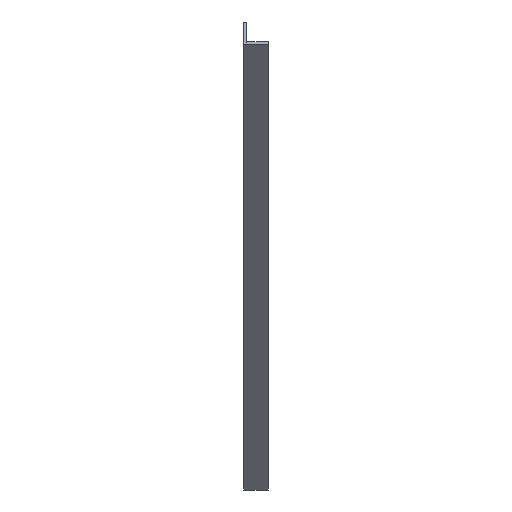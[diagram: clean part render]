
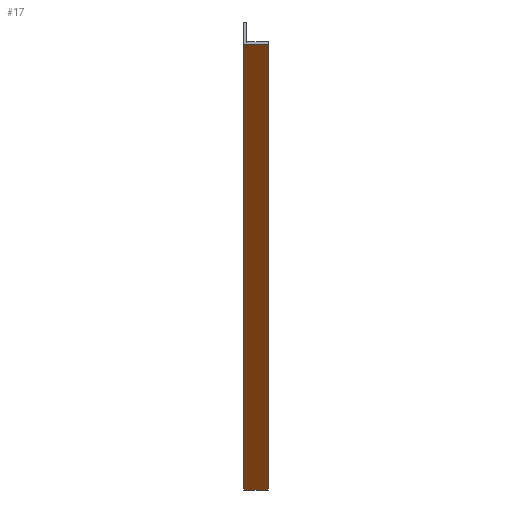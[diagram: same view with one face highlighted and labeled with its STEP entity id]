
A CAD part, front view. The second image highlights one B-rep face of the part: STEP entity #17.
In plain terms, the highlighted planar face has unit normal (0, -0.391, -0.92).
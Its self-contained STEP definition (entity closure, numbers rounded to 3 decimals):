
#17 = ADVANCED_FACE('',(#18),#32,.F.);
#18 = FACE_BOUND('',#19,.F.);
#19 = EDGE_LOOP('',(#20,#55,#83,#111));
#20 = ORIENTED_EDGE('',*,*,#21,.T.);
#21 = EDGE_CURVE('',#22,#24,#26,.T.);
#22 = VERTEX_POINT('',#23);
#23 = CARTESIAN_POINT('',(1990.,1646.,150.));
#24 = VERTEX_POINT('',#25);
#25 = CARTESIAN_POINT('',(1990.,-1646.,1550.));
#26 = SURFACE_CURVE('',#27,(#31,#43),.PCURVE_S1.);
#27 = LINE('',#28,#29);
#28 = CARTESIAN_POINT('',(1990.,1646.,150.));
#29 = VECTOR('',#30,1.);
#30 = DIRECTION('',(0.,-0.92,0.391));
#31 = PCURVE('',#32,#37);
#32 = PLANE('',#33);
#33 = AXIS2_PLACEMENT_3D('',#34,#35,#36);
#34 = CARTESIAN_POINT('',(1990.,1646.,150.));
#35 = DIRECTION('',(-0.,0.391,0.92));
#36 = DIRECTION('',(1.,0.,0.));
#37 = DEFINITIONAL_REPRESENTATION('',(#38),#42);
#38 = LINE('',#39,#40);
#39 = CARTESIAN_POINT('',(0.,0.));
#40 = VECTOR('',#41,1.);
#41 = DIRECTION('',(0.,-1.));
#42 = ( GEOMETRIC_REPRESENTATION_CONTEXT(2) 
PARAMETRIC_REPRESENTATION_CONTEXT() REPRESENTATION_CONTEXT('2D SPACE',''
  ) );
#43 = PCURVE('',#44,#49);
#44 = PLANE('',#45);
#45 = AXIS2_PLACEMENT_3D('',#46,#47,#48);
#46 = CARTESIAN_POINT('',(1990.,1675.821,220.122));
#47 = DIRECTION('',(1.,0.,0.));
#48 = DIRECTION('',(0.,-0.391,-0.92));
#49 = DEFINITIONAL_REPRESENTATION('',(#50),#54);
#50 = LINE('',#51,#52);
#51 = CARTESIAN_POINT('',(76.2,0.));
#52 = VECTOR('',#53,1.);
#53 = DIRECTION('',(0.,-1.));
#54 = ( GEOMETRIC_REPRESENTATION_CONTEXT(2) 
PARAMETRIC_REPRESENTATION_CONTEXT() REPRESENTATION_CONTEXT('2D SPACE',''
  ) );
#55 = ORIENTED_EDGE('',*,*,#56,.T.);
#56 = EDGE_CURVE('',#24,#57,#59,.T.);
#57 = VERTEX_POINT('',#58);
#58 = CARTESIAN_POINT('',(2066.2,-1646.,1550.));
#59 = SURFACE_CURVE('',#60,(#64,#71),.PCURVE_S1.);
#60 = LINE('',#61,#62);
#61 = CARTESIAN_POINT('',(1990.,-1646.,1550.));
#62 = VECTOR('',#63,1.);
#63 = DIRECTION('',(1.,0.,0.));
#64 = PCURVE('',#32,#65);
#65 = DEFINITIONAL_REPRESENTATION('',(#66),#70);
#66 = LINE('',#67,#68);
#67 = CARTESIAN_POINT('',(0.,-3577.326));
#68 = VECTOR('',#69,1.);
#69 = DIRECTION('',(1.,0.));
#70 = ( GEOMETRIC_REPRESENTATION_CONTEXT(2) 
PARAMETRIC_REPRESENTATION_CONTEXT() REPRESENTATION_CONTEXT('2D SPACE',''
  ) );
#71 = PCURVE('',#72,#77);
#72 = PLANE('',#73);
#73 = AXIS2_PLACEMENT_3D('',#74,#75,#76);
#74 = CARTESIAN_POINT('',(2013.515,-1636.797,
    1571.639));
#75 = DIRECTION('',(0.,-0.92,0.391)
  );
#76 = DIRECTION('',(0.,-0.391,-0.92)
  );
#77 = DEFINITIONAL_REPRESENTATION('',(#78),#82);
#78 = LINE('',#79,#80);
#79 = CARTESIAN_POINT('',(23.515,-23.515));
#80 = VECTOR('',#81,1.);
#81 = DIRECTION('',(0.,1.));
#82 = ( GEOMETRIC_REPRESENTATION_CONTEXT(2) 
PARAMETRIC_REPRESENTATION_CONTEXT() REPRESENTATION_CONTEXT('2D SPACE',''
  ) );
#83 = ORIENTED_EDGE('',*,*,#84,.F.);
#84 = EDGE_CURVE('',#85,#57,#87,.T.);
#85 = VERTEX_POINT('',#86);
#86 = CARTESIAN_POINT('',(2066.2,1646.,150.));
#87 = SURFACE_CURVE('',#88,(#92,#99),.PCURVE_S1.);
#88 = LINE('',#89,#90);
#89 = CARTESIAN_POINT('',(2066.2,1646.,150.));
#90 = VECTOR('',#91,1.);
#91 = DIRECTION('',(0.,-0.92,0.391));
#92 = PCURVE('',#32,#93);
#93 = DEFINITIONAL_REPRESENTATION('',(#94),#98);
#94 = LINE('',#95,#96);
#95 = CARTESIAN_POINT('',(76.2,0.));
#96 = VECTOR('',#97,1.);
#97 = DIRECTION('',(0.,-1.));
#98 = ( GEOMETRIC_REPRESENTATION_CONTEXT(2) 
PARAMETRIC_REPRESENTATION_CONTEXT() REPRESENTATION_CONTEXT('2D SPACE',''
  ) );
#99 = PCURVE('',#100,#105);
#100 = PLANE('',#101);
#101 = AXIS2_PLACEMENT_3D('',#102,#103,#104);
#102 = CARTESIAN_POINT('',(2066.2,1646.,150.));
#103 = DIRECTION('',(-1.,0.,0.));
#104 = DIRECTION('',(0.,0.391,0.92));
#105 = DEFINITIONAL_REPRESENTATION('',(#106),#110);
#106 = LINE('',#107,#108);
#107 = CARTESIAN_POINT('',(0.,0.));
#108 = VECTOR('',#109,1.);
#109 = DIRECTION('',(0.,-1.));
#110 = ( GEOMETRIC_REPRESENTATION_CONTEXT(2) 
PARAMETRIC_REPRESENTATION_CONTEXT() REPRESENTATION_CONTEXT('2D SPACE',''
  ) );
#111 = ORIENTED_EDGE('',*,*,#112,.F.);
#112 = EDGE_CURVE('',#22,#85,#113,.T.);
#113 = SURFACE_CURVE('',#114,(#118,#125),.PCURVE_S1.);
#114 = LINE('',#115,#116);
#115 = CARTESIAN_POINT('',(1990.,1646.,150.));
#116 = VECTOR('',#117,1.);
#117 = DIRECTION('',(1.,0.,0.));
#118 = PCURVE('',#32,#119);
#119 = DEFINITIONAL_REPRESENTATION('',(#120),#124);
#120 = LINE('',#121,#122);
#121 = CARTESIAN_POINT('',(0.,0.));
#122 = VECTOR('',#123,1.);
#123 = DIRECTION('',(1.,0.));
#124 = ( GEOMETRIC_REPRESENTATION_CONTEXT(2) 
PARAMETRIC_REPRESENTATION_CONTEXT() REPRESENTATION_CONTEXT('2D SPACE',''
  ) );
#125 = PCURVE('',#126,#131);
#126 = PLANE('',#127);
#127 = AXIS2_PLACEMENT_3D('',#128,#129,#130);
#128 = CARTESIAN_POINT('',(2013.515,1655.203,
    171.639));
#129 = DIRECTION('',(0.,-0.92,0.391)
  );
#130 = DIRECTION('',(0.,-0.391,-0.92)
  );
#131 = DEFINITIONAL_REPRESENTATION('',(#132),#136);
#132 = LINE('',#133,#134);
#133 = CARTESIAN_POINT('',(23.515,-23.515));
#134 = VECTOR('',#135,1.);
#135 = DIRECTION('',(0.,1.));
#136 = ( GEOMETRIC_REPRESENTATION_CONTEXT(2) 
PARAMETRIC_REPRESENTATION_CONTEXT() REPRESENTATION_CONTEXT('2D SPACE',''
  ) );
